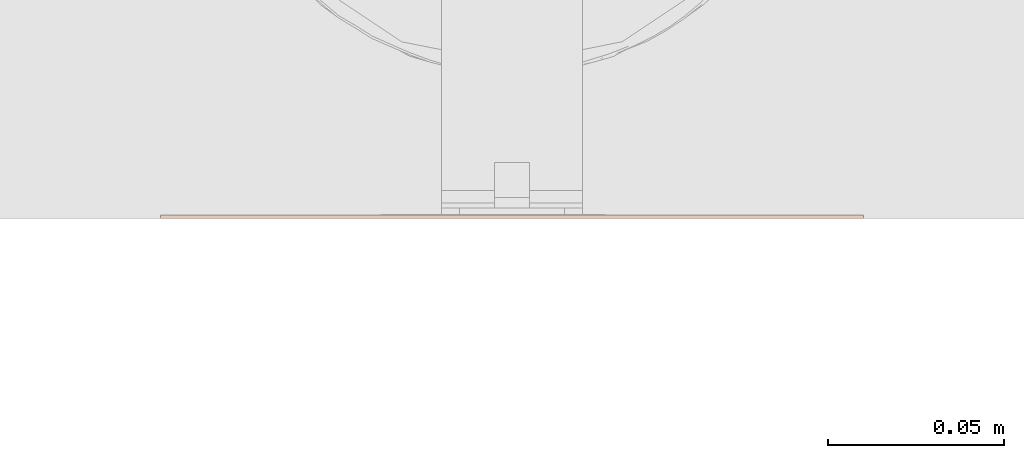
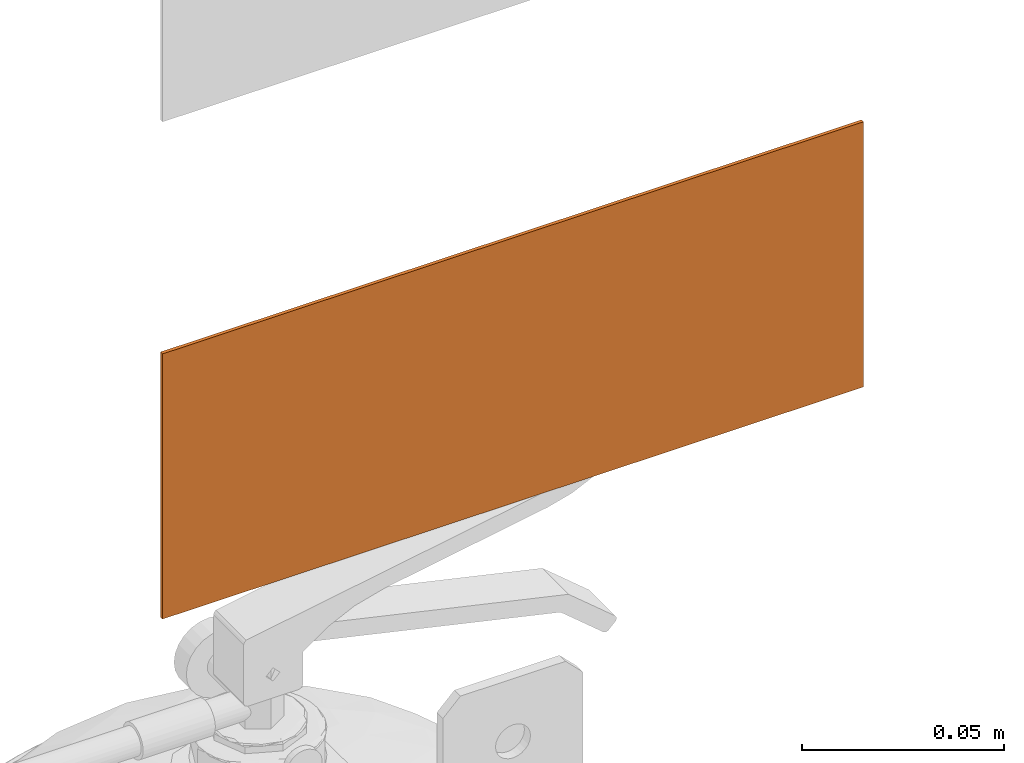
# One storey, part 105 of 119: 1 proxy.
"""IFC2X3 building model written with IfcOpenShell, lengths in metres."""

import ifcopenshell
import ifcopenshell.guid

model = None  # the IFC model being written
_history = None  # IfcOwnerHistory: only IFC2X3 demands one
_inside = {}  # id of a spatial element -> (the spatial element, [elements in it])
_under = {}  # id of a project, library or spatial element -> (it, [spatial elements below it])
_declared = {}  # id of a project -> (the project, [libraries it declares])
_typed = {}  # id of a type object -> (the type object, [elements of that type])
_made_of = {}  # id of a material, layer set ... -> (it, [elements and type objects made of it])


def new_model(schema):
    """Start an empty IFC model of exactly this schema.

    Asked for "IFC4X3", IfcOpenShell would pick the latest addendum, in which some entities
    have other attributes; the version numbers below select the first issue.
    IFC2X3 requires an IfcOwnerHistory on every rooted entity: one is made here for all.
    """
    global model, _history
    if schema == "IFC4X3":
        model = ifcopenshell.file(schema_version=(4, 3, 0, 0))
    else:
        model = ifcopenshell.file(schema=schema)
    _inside.clear()
    _under.clear()
    _declared.clear()
    _typed.clear()
    _made_of.clear()
    _history = None
    if model.schema == "IFC2X3":
        org = make("IfcOrganization", Name="unknown")
        user = make(
            "IfcPersonAndOrganization",
            ThePerson=make("IfcPerson", FamilyName="unknown"),
            TheOrganization=org,
        )
        app = make(
            "IfcApplication",
            ApplicationDeveloper=org,
            Version="unknown",
            ApplicationFullName="unknown",
            ApplicationIdentifier="unknown",
        )
        _history = make(
            "IfcOwnerHistory",
            OwningUser=user,
            OwningApplication=app,
            ChangeAction="ADDED",
            CreationDate=0,
        )
    return model


def make(cls, **values):
    """One entity of the class cls with the attributes given. An attribute that is None is left unset."""
    return model.create_entity(
        cls, **{name: value for name, value in values.items() if value is not None}
    )


def entity(cls, *values):
    """Any entity or typed value of the class cls, its attributes in the order of the schema. None: left unset."""
    e = model.create_entity(cls)
    for i, value in enumerate(values):
        if value is not None:
            e[i] = value
    return e


def rooted(cls, **values):
    """An entity with a GlobalId (a new one), such as an element, a storey or a relation."""
    return make(cls, GlobalId=ifcopenshell.guid.new(), OwnerHistory=_history, **values)


def si_unit(unit_type, name, prefix=None):
    """IfcSIUnit, for example si_unit("LENGTHUNIT", "METRE", prefix="MILLI")."""
    return make("IfcSIUnit", UnitType=unit_type, Prefix=prefix, Name=name)


def converted_unit(unit_type, name, factor, base, dimensions=None, offset=None):
    """IfcConversionBasedUnit, such as the inch: factor (a typed value) times the base unit."""
    return make(
        "IfcConversionBasedUnit"
        if offset is None
        else "IfcConversionBasedUnitWithOffset",
        ConversionOffset=offset,
        Dimensions=None
        if dimensions is None
        else entity("IfcDimensionalExponents", *dimensions),
        UnitType=unit_type,
        Name=name,
        ConversionFactor=make(
            "IfcMeasureWithUnit", ValueComponent=factor, UnitComponent=base
        ),
    )


def derived_unit(unit_type, elements):
    """IfcDerivedUnit: a product of units, each with its exponent."""
    return make(
        "IfcDerivedUnit",
        Elements=[
            make("IfcDerivedUnitElement", Unit=unit, Exponent=power)
            for unit, power in elements
        ],
        UnitType=unit_type,
    )


def assignment(units):
    """IfcUnitAssignment: the units of a project."""
    return None if units is None else make("IfcUnitAssignment", Units=units)


def point(xyz):
    """IfcCartesianPoint."""
    return None if xyz is None else make("IfcCartesianPoint", Coordinates=xyz)


def direction(xyz):
    """IfcDirection."""
    return None if xyz is None else make("IfcDirection", DirectionRatios=xyz)


def frame(location, z_axis=None, x_axis=None):
    """IfcAxis2Placement3D, a coordinate frame: its origin and axes. An axis left out is left unset."""
    return make(
        "IfcAxis2Placement3D",
        Location=point(location),
        Axis=direction(z_axis),
        RefDirection=direction(x_axis),
    )


def frame_2d(location, x_axis=None):
    """IfcAxis2Placement2D, a coordinate frame in the plane: its origin and x axis."""
    return make(
        "IfcAxis2Placement2D", Location=point(location), RefDirection=direction(x_axis)
    )


def origin():
    """The frame at (0, 0, 0) with its axes left unset."""
    return frame((0.0, 0.0, 0.0))


def origin_2d_with_axis():
    """The frame at (0, 0) in the plane with the x axis (1, 0) written out."""
    return frame_2d((0.0, 0.0), x_axis=(1.0, 0.0))


def place(relative_to, where):
    """IfcLocalPlacement: puts the frame where relative to a parent placement (None: the world)."""
    return make(
        "IfcLocalPlacement", PlacementRelTo=relative_to, RelativePlacement=where
    )


def context(
    kind, dimensions, precision=None, world=None, true_north=None, identifier=None
):
    """IfcGeometricRepresentationContext, for example the 3D "Model" context."""
    return make(
        "IfcGeometricRepresentationContext",
        ContextIdentifier=identifier,
        ContextType=kind,
        CoordinateSpaceDimension=dimensions,
        Precision=precision,
        WorldCoordinateSystem=world,
        TrueNorth=true_north,
    )


def subcontext(parent, identifier, kind, view, scale=None):
    """IfcGeometricRepresentationSubContext, for example "Body" below "Model"."""
    return make(
        "IfcGeometricRepresentationSubContext",
        ContextIdentifier=identifier,
        ContextType=kind,
        ParentContext=parent,
        TargetScale=scale,
        TargetView=view,
    )


def project(units=None, contexts=None):
    """IfcProject with its units and contexts."""
    return rooted(
        "IfcProject",
        Name="project",
        RepresentationContexts=contexts,
        UnitsInContext=assignment(units),
    )


def spatial(cls, under=None, at=None, **own):
    """A site, building, storey or space (cls), placed at a placement, below another one or the project."""
    s = rooted(cls, ObjectPlacement=at, **own)
    if under is not None:
        _under.setdefault(under.id(), (under, []))[1].append(s)
    return s


def polyline(points):
    """IfcPolyline through the points."""
    return make("IfcPolyline", Points=[point(p) for p in points])


def circle_curve(where, radius):
    """IfcCircle in the frame where."""
    return make("IfcCircle", Position=where, Radius=radius)


def parameter(value):
    """IfcParameterValue: where a trimmed curve begins or ends, as a parameter of its basis curve."""
    return model.create_entity("IfcParameterValue", value)


def trimmed(basis, trim1, trim2, sense, master):
    """IfcTrimmedCurve: the piece of a basis curve between two trims."""
    return make(
        "IfcTrimmedCurve",
        BasisCurve=basis,
        Trim1=trim1,
        Trim2=trim2,
        SenseAgreement=sense,
        MasterRepresentation=master,
    )


def segment(curve, same_sense, transition):
    """IfcCompositeCurveSegment."""
    return make(
        "IfcCompositeCurveSegment",
        Transition=transition,
        SameSense=same_sense,
        ParentCurve=curve,
    )


def composite_curve(segments, self_intersect=None):
    """IfcCompositeCurve: segments joined end to end."""
    return make("IfcCompositeCurve", Segments=segments, SelfIntersect=self_intersect)


def profile(cls, at=None, kind="AREA", **sizes):
    """A parametric profile (cls). Its sizes go by their IFC names, for example OverallWidth=200.0."""
    return make(cls, ProfileType=kind, Position=at, **sizes)


def rectangle(**sizes):
    """IfcRectangleProfileDef."""
    return profile("IfcRectangleProfileDef", **sizes)


def outline(outer, holes=None, kind="AREA"):
    """IfcArbitraryClosedProfileDef: a profile drawn as a closed curve; with holes, ...WithVoids."""
    if holes is None:
        return make("IfcArbitraryClosedProfileDef", ProfileType=kind, OuterCurve=outer)
    return make(
        "IfcArbitraryProfileDefWithVoids",
        ProfileType=kind,
        OuterCurve=outer,
        InnerCurves=holes,
    )


def extrude(swept, where, along, depth):
    """IfcExtrudedAreaSolid: the profile swept, set in the frame where, extruded along a direction by depth."""
    return make(
        "IfcExtrudedAreaSolid",
        SweptArea=swept,
        Position=where,
        ExtrudedDirection=direction(along),
        Depth=depth,
    )


def shape(context_of_items, identifier, shape_type, items):
    """IfcShapeRepresentation: the items that make up one representation, for example the "Body"."""
    return make(
        "IfcShapeRepresentation",
        ContextOfItems=context_of_items,
        RepresentationIdentifier=identifier,
        RepresentationType=shape_type,
        Items=items,
    )


def source(mapping_origin, context_of_items, identifier, shape_type, items):
    """IfcRepresentationMap: a shape defined once, which mapped items show again and again."""
    return make(
        "IfcRepresentationMap",
        MappingOrigin=mapping_origin,
        MappedRepresentation=shape(context_of_items, identifier, shape_type, items),
    )


def transform(
    local_origin,
    x_axis=None,
    y_axis=None,
    z_axis=None,
    scale=None,
    scale2=None,
    scale3=None,
    uniform=True,
):
    """IfcCartesianTransformationOperator3D, or its non-uniform kind. x_axis, y_axis, z_axis: its Axis1, 2, 3."""
    if uniform:
        return make(
            "IfcCartesianTransformationOperator3D",
            Axis1=direction(x_axis),
            Axis2=direction(y_axis),
            LocalOrigin=point(local_origin),
            Scale=scale,
            Axis3=direction(z_axis),
        )
    return make(
        "IfcCartesianTransformationOperator3DnonUniform",
        Axis1=direction(x_axis),
        Axis2=direction(y_axis),
        LocalOrigin=point(local_origin),
        Scale=scale,
        Axis3=direction(z_axis),
        Scale2=scale2,
        Scale3=scale3,
    )


def mapped(mapping_source, mapping_target):
    """IfcMappedItem: shows the shape of a source again, moved by a transform."""
    return make(
        "IfcMappedItem", MappingSource=mapping_source, MappingTarget=mapping_target
    )


def material(Name=None, Category=None):
    """IfcMaterial."""
    return make("IfcMaterial", Name=Name, Category=Category)


def material_list(materials):
    """IfcMaterialList."""
    return make("IfcMaterialList", Materials=materials)


def made_of(thing, what):
    """Note that an element or type object is made of a material, layer set ...; save() writes the relation."""
    if what is not None:
        _made_of.setdefault(what.id(), (what, []))[1].append(thing)
    return thing


def type_object(cls, material=None, **own):
    """A type object (cls), such as IfcWallType, which elements share."""
    return made_of(rooted(cls, **own), material)


def type_shapes(of_type, sources):
    """Give a type object the sources (RepresentationMaps) that its elements show as mapped items."""
    of_type.RepresentationMaps = sources


def element(
    cls,
    number,
    at=None,
    inside=None,
    cuts=None,
    type_object=None,
    material=None,
    context=None,
    identifier="Body",
    shape_type=None,
    held_by="IfcProductDefinitionShape",
    body=None,
    shapes=None,
    **own,
):
    """One element of the class cls, such as IfcWall. Its Tag is "e" and its number.

    at: its placement. inside: the storey or other place that contains it. cuts: it is an
    opening in that element (IfcRelVoidsElement). A single representation is given by context,
    identifier, shape_type and body (its items); several are given by shapes. held_by: the class
    of the entity that holds the representations. save() writes the other relations.
    """
    e = rooted(cls, Tag="e%d" % number, ObjectPlacement=at, **own)
    if body is not None:
        shapes = [shape(context, identifier, shape_type, body)]
    if shapes is not None:
        e.Representation = make(held_by, Representations=shapes)
    if inside is not None:
        _inside.setdefault(inside.id(), (inside, []))[1].append(e)
    if cuts is not None:
        rooted(
            "IfcRelVoidsElement", RelatingBuildingElement=cuts, RelatedOpeningElement=e
        )
    if type_object is not None:
        _typed.setdefault(type_object.id(), (type_object, []))[1].append(e)
    return made_of(e, material)


def aggregate(whole, parts):
    """IfcRelAggregates: a whole, such as a stair, and the parts it consists of."""
    return rooted("IfcRelAggregates", RelatingObject=whole, RelatedObjects=parts)


def save(model, path):
    """Write the relations noted so far, then the file.

    IfcRelAggregates (storeys below a building ...), IfcRelContainedInSpatialStructure (elements
    in a storey), IfcRelDefinesByType, IfcRelAssociatesMaterial and IfcRelDeclares: one each for
    every whole, place, type object, material and project.
    """
    for whole, parts in _under.values():
        aggregate(whole, parts)
    for where, things in _inside.values():
        rooted(
            "IfcRelContainedInSpatialStructure",
            RelatedElements=things,
            RelatingStructure=where,
        )
    for kind, things in _typed.values():
        rooted("IfcRelDefinesByType", RelatedObjects=things, RelatingType=kind)
    for what, things in _made_of.values():
        rooted("IfcRelAssociatesMaterial", RelatedObjects=things, RelatingMaterial=what)
    for by, libraries in _declared.values():
        rooted("IfcRelDeclares", RelatingContext=by, RelatedDefinitions=libraries)
    model.write(path)


model = new_model("IFC2X3")

# Units and contexts
model_context = context("Model", 3, precision=1e-05, world=origin(), true_north=direction((6.12303176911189e-17, 1.0)))
body_context = subcontext(model_context, "Body", "Model", "MODEL_VIEW")
ifc_project = project(units=[si_unit("LENGTHUNIT", "METRE"), si_unit("AREAUNIT", "SQUARE_METRE"), si_unit("VOLUMEUNIT", "CUBIC_METRE"), converted_unit("PLANEANGLEUNIT", "DEGREE", entity("IfcRatioMeasure", 0.0174532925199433), si_unit("PLANEANGLEUNIT", "RADIAN"), dimensions=[0, 0, 0, 0, 0, 0, 0]), si_unit("MASSUNIT", "GRAM", prefix="KILO"), derived_unit("MASSDENSITYUNIT", [(si_unit("MASSUNIT", "GRAM", prefix="KILO"), 1), (si_unit("LENGTHUNIT", "METRE"), -3)]), derived_unit("MOMENTOFINERTIAUNIT", [(si_unit("LENGTHUNIT", "METRE"), 4)]), si_unit("TIMEUNIT", "SECOND"), si_unit("FREQUENCYUNIT", "HERTZ"), si_unit("THERMODYNAMICTEMPERATUREUNIT", "DEGREE_CELSIUS"), derived_unit("THERMALTRANSMITTANCEUNIT", [(si_unit("MASSUNIT", "GRAM", prefix="KILO"), 1), (si_unit("THERMODYNAMICTEMPERATUREUNIT", "KELVIN"), -1), (si_unit("TIMEUNIT", "SECOND"), -3)]), derived_unit("VOLUMETRICFLOWRATEUNIT", [(si_unit("LENGTHUNIT", "METRE"), 3), (si_unit("TIMEUNIT", "SECOND"), -1)]), si_unit("ELECTRICCURRENTUNIT", "AMPERE"), si_unit("ELECTRICVOLTAGEUNIT", "VOLT"), si_unit("POWERUNIT", "WATT"), si_unit("FORCEUNIT", "NEWTON", prefix="KILO"), si_unit("ILLUMINANCEUNIT", "LUX"), si_unit("LUMINOUSFLUXUNIT", "LUMEN"), si_unit("LUMINOUSINTENSITYUNIT", "CANDELA"), derived_unit("USERDEFINED", [(si_unit("MASSUNIT", "GRAM", prefix="KILO"), -1), (si_unit("LENGTHUNIT", "METRE"), -2), (si_unit("TIMEUNIT", "SECOND"), 3), (si_unit("LUMINOUSFLUXUNIT", "LUMEN"), 1)]), derived_unit("LINEARVELOCITYUNIT", [(si_unit("LENGTHUNIT", "METRE"), 1), (si_unit("TIMEUNIT", "SECOND"), -1)]), si_unit("PRESSUREUNIT", "PASCAL"), derived_unit("USERDEFINED", [(si_unit("LENGTHUNIT", "METRE"), -2), (si_unit("MASSUNIT", "GRAM", prefix="KILO"), 1), (si_unit("TIMEUNIT", "SECOND"), -2)]), derived_unit("LINEARFORCEUNIT", [(si_unit("MASSUNIT", "GRAM", prefix="KILO"), 1), (si_unit("LENGTHUNIT", "METRE"), 1), (si_unit("TIMEUNIT", "SECOND"), -2), (si_unit("LENGTHUNIT", "METRE"), -1)]), derived_unit("PLANARFORCEUNIT", [(si_unit("MASSUNIT", "GRAM", prefix="KILO"), 1), (si_unit("LENGTHUNIT", "METRE"), 1), (si_unit("TIMEUNIT", "SECOND"), -2), (si_unit("LENGTHUNIT", "METRE"), -2)])], contexts=[model_context])

# Site, building, storey
site_placement = place(None, origin())
site = spatial("IfcSite", under=ifc_project, at=site_placement, Name="Default", CompositionType="ELEMENT")
building_placement = place(site_placement, origin())
building = spatial("IfcBuilding", under=site, at=building_placement, CompositionType="ELEMENT")
storey_placement = place(building_placement, origin())
storey = spatial("IfcBuildingStorey", under=building, at=storey_placement, Name="PAV. 01 - TÉRREO", CompositionType="ELEMENT", Elevation=0.0)

# Proxy
ifc_material_1 = material(Name="Plastico Preto")
ifc_material_2 = material(Name="Plastico azul claro")
ifc_material_3 = material(Name="Plastico vermelho")
ifc_material_4 = material(Name="Plastico branco")
ifc_material_5 = material(Name="Plastico Verde")
ifc_material_list = material_list([ifc_material_1, ifc_material_2, ifc_material_3, ifc_material_4, ifc_material_5])
building_element_proxy_type = type_object("IfcBuildingElementProxyType", Name="Sinalização de equipamentos - E05 - Extintor de incêndio - TIPO 2:Placa de extintor - E6-A", PredefinedType="NOTDEFINED", material=ifc_material_1)
shared_shape = source(origin(), body_context, "Body", "SweptSolid", [
    extrude(rectangle(XDim=0.0243464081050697, YDim=0.001, at=origin_2d_with_axis()), frame((0.0791678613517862, 0.0005, 0.0143679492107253), z_axis=(0.0, 0.0, 1.0), x_axis=(-1.0, 0.0, 0.0)), (0.0, 0.0, 1.0), 0.0243153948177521),
    extrude(rectangle(XDim=0.0243464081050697, YDim=0.001, at=origin_2d_with_axis()), frame((0.0514092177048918, 0.0005, 0.0143679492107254), z_axis=(0.0, 0.0, 1.0), x_axis=(-1.0, 0.0, 0.0)), (0.0, 0.0, 1.0), 0.0243153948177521),
    extrude(rectangle(XDim=0.0243464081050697, YDim=0.001, at=origin_2d_with_axis()), frame((0.023605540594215, 0.0005, 0.0143679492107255), z_axis=(0.0, 0.0, 1.0), x_axis=(-1.0, 0.0, 0.0)), (0.0, 0.0, 1.0), 0.0243153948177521),
    extrude(rectangle(XDim=0.0243464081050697, YDim=0.001, at=origin_2d_with_axis()), frame((-0.00415310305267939, 0.0005, 0.0143679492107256), z_axis=(0.0, 0.0, 1.0), x_axis=(-1.0, 0.0, 0.0)), (0.0, 0.0, 1.0), 0.0243153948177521),
    extrude(outline(polyline([(-0.0399999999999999, -0.1), (0.0399999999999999, -0.1), (0.0399999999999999, 0.1), (-0.0399999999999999, 0.1), (-0.0399999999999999, -0.1)]), holes=[polyline([(-0.0319999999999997, 0.091), (-0.0150022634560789, 0.091), (-0.0150022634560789, -0.091), (-0.0319999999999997, -0.091), (-0.0319999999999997, 0.091)]), polyline([(-0.010791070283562, 0.091), (0.0319999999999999, 0.091), (0.0319999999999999, 0.0473282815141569), (-0.010791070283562, 0.0473282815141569), (-0.010791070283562, 0.091)]), polyline([(0.00131665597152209, 0.0441091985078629), (0.0256320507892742, 0.0441091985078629), (0.0256320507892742, 0.0197627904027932), (0.00131665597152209, 0.0197627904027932), (0.00131665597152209, 0.0441091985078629)]), polyline([(0.00131665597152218, 0.0163263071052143), (0.0256320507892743, 0.0163263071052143), (0.0256320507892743, -0.00802010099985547), (0.00131665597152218, -0.00802010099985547), (0.00131665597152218, 0.0163263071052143)]), polyline([(0.00131665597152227, -0.0114323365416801), (0.0256320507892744, -0.0114323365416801), (0.0256320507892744, -0.0357787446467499), (0.00131665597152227, -0.0357787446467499), (0.00131665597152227, -0.0114323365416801)]), polyline([(0.00131665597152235, -0.0635824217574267), (0.00131665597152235, -0.039236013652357), (0.0256320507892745, -0.039236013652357), (0.0256320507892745, -0.0635824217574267), (0.00131665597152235, -0.0635824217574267)]), polyline([(0.00131665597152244, -0.0669946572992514), (0.0256320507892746, -0.0669946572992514), (0.0256320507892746, -0.091), (0.00131665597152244, -0.091), (0.00131665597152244, -0.0669946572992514)])]), frame((0.0, 0.0, 0.0399999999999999), z_axis=(0.0, 1.0, 0.0), x_axis=(0.0, 0.0, -1.0)), (0.0, 0.0, 1.0), 0.001),
    extrude(outline(composite_curve([segment(trimmed(circle_curve(frame_2d((-0.00182713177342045, 0.0030692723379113), x_axis=(1.0, 0.0)), 0.00333179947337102), [parameter(180.0)], [parameter(270.0)], True, "PARAMETER"), True, "CONTINUOUS"), segment(polyline([(-0.00182713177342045, -0.000262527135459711), (-0.000430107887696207, -0.000262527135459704)]), True, "CONTINUOUS"), segment(polyline([(-0.000430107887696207, -0.000262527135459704), (-0.000430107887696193, -0.00350797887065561)]), True, "CONTINUOUS"), segment(polyline([(-0.000430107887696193, -0.00350797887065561), (-0.00249820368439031, -0.00350797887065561)]), True, "CONTINUOUS"), segment(polyline([(-0.00249820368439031, -0.00350797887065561), (-0.00742535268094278, 7.18044171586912e-05)]), True, "CONTINUOUS"), segment(polyline([(-0.00742535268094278, 7.18044171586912e-05), (-0.00742535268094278, 0.00166630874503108)]), True, "CONTINUOUS"), segment(polyline([(-0.00742535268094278, 0.00166630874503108), (-0.00871124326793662, 0.00166630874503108)]), True, "CONTINUOUS"), segment(polyline([(-0.00871124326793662, 0.00166630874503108), (-0.00846384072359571, -0.00134355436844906)]), True, "CONTINUOUS"), segment(trimmed(circle_curve(frame_2d((-0.00608099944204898, -0.00114769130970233), x_axis=(1.0, 0.0)), 0.00239087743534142), [parameter(184.698993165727)], [parameter(232.0)], True, "PARAMETER"), True, "CONTINUOUS"), segment(polyline([(-0.00755297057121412, -0.00303172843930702), (-0.0030496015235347, -0.00655014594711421)]), True, "CONTINUOUS"), segment(polyline([(-0.0030496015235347, -0.00655014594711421), (-0.000124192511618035, -0.00655014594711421)]), True, "CONTINUOUS"), segment(polyline([(-0.000124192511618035, -0.00655014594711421), (-0.000124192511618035, -0.00788602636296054)]), True, "CONTINUOUS"), segment(polyline([(-0.000124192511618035, -0.00788602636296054), (0.003207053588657, -0.00788602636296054)]), True, "CONTINUOUS"), segment(polyline([(0.003207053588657, -0.00788602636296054), (0.003207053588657, -0.00698801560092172)]), True, "CONTINUOUS"), segment(polyline([(0.003207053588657, -0.00698801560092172), (0.00540783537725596, -0.00698801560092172)]), True, "CONTINUOUS"), segment(polyline([(0.00540783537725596, -0.00698801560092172), (0.00665542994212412, -0.00574042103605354)]), True, "CONTINUOUS"), segment(polyline([(0.00665542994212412, -0.00574042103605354), (0.00665542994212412, -0.00450724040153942)]), True, "CONTINUOUS"), segment(polyline([(0.00665542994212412, -0.00450724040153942), (0.00491919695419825, -0.00324579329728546)]), True, "CONTINUOUS"), segment(polyline([(0.00491919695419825, -0.00324579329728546), (0.00355615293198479, -0.00324579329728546)]), True, "CONTINUOUS"), segment(polyline([(0.00355615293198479, -0.00324579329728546), (0.00355615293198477, -0.000262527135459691)]), True, "CONTINUOUS"), segment(polyline([(0.00355615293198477, -0.000262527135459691), (0.00500257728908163, -0.000262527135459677)]), True, "CONTINUOUS"), segment(trimmed(circle_curve(frame_2d((0.00500257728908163, 0.00284153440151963), x_axis=(1.0, 0.0)), 0.00310406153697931), [parameter(270.0)], [parameter(1.52666624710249e-13)], True, "PARAMETER"), True, "CONTINUOUS"), segment(polyline([(0.00810663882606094, 0.00284153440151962), (0.0081066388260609, 0.0313568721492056)]), True, "CONTINUOUS"), segment(polyline([(0.0081066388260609, 0.0313568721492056), (-0.00515893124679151, 0.0313568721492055)]), True, "CONTINUOUS"), segment(polyline([(-0.00515893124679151, 0.0313568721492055), (-0.00515893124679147, 0.00306927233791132)]), True, "CONTINUOUS")], self_intersect=False)), frame((-0.0705753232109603, 0.0, 0.0413479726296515), z_axis=(0.0, 1.0, 0.0), x_axis=(1.0, 0.0, 0.0)), (0.0, 0.0, 1.0), 0.001),
    extrude(rectangle(XDim=0.0243464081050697, YDim=0.001, at=origin_2d_with_axis()), frame((-0.0319359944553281, 0.0005, 0.0143679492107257), z_axis=(0.0, 0.0, 1.0), x_axis=(-1.0, 0.0, 0.0)), (0.0, 0.0, 1.0), 0.0243153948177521),
    extrude(outline(polyline([(-0.0218358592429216, -0.021395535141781), (0.0218358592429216, -0.021395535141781), (0.0218358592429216, 0.021395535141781), (-0.0218358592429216, 0.021395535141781), (-0.0218358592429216, -0.021395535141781)]), holes=[composite_curve([segment(polyline([(-0.00669545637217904, -0.0194044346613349), (-0.00669545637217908, 0.00911090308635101)]), True, "CONTINUOUS"), segment(trimmed(circle_curve(frame_2d((-0.00359139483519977, 0.00911090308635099), x_axis=(-1.0, 0.0)), 0.00310406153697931), [parameter(270.0)], [parameter(360.0)], True, "PARAMETER"), False, "CONTINUOUS"), segment(polyline([(-0.0035913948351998, 0.0122149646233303), (-0.00214497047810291, 0.0122149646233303)]), True, "CONTINUOUS"), segment(polyline([(-0.00214497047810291, 0.0122149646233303), (-0.00214497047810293, 0.0151982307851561)]), True, "CONTINUOUS"), segment(polyline([(-0.00214497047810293, 0.0151982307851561), (-0.0035080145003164, 0.0151982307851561)]), True, "CONTINUOUS"), segment(polyline([(-0.0035080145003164, 0.0151982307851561), (-0.00524424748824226, 0.01645967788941)]), True, "CONTINUOUS"), segment(polyline([(-0.00524424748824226, 0.01645967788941), (-0.00524424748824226, 0.0176928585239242)]), True, "CONTINUOUS"), segment(polyline([(-0.00524424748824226, 0.0176928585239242), (-0.0039966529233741, 0.0189404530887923)]), True, "CONTINUOUS"), segment(polyline([(-0.0039966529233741, 0.0189404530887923), (-0.00179587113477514, 0.0189404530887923)]), True, "CONTINUOUS"), segment(polyline([(-0.00179587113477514, 0.0189404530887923), (-0.00179587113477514, 0.0198384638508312)]), True, "CONTINUOUS"), segment(polyline([(-0.00179587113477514, 0.0198384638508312), (0.00153537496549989, 0.0198384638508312)]), True, "CONTINUOUS"), segment(polyline([(0.00153537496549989, 0.0198384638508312), (0.00153537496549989, 0.0185025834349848)]), True, "CONTINUOUS"), segment(polyline([(0.00153537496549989, 0.0185025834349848), (0.00446078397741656, 0.0185025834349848)]), True, "CONTINUOUS"), segment(polyline([(0.00446078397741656, 0.0185025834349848), (0.00896415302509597, 0.0149841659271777)]), True, "CONTINUOUS"), segment(trimmed(circle_curve(frame_2d((0.00749218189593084, 0.0131001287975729), x_axis=(-1.0, 0.0)), 0.00239087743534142), [parameter(184.698993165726)], [parameter(231.999999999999)], True, "PARAMETER"), False, "CONTINUOUS"), segment(polyline([(0.00987502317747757, 0.0132959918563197), (0.0101224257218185, 0.0102861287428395)]), True, "CONTINUOUS"), segment(polyline([(0.0101224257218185, 0.0102861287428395), (0.00883653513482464, 0.0102861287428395)]), True, "CONTINUOUS"), segment(polyline([(0.00883653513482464, 0.0102861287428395), (0.00883653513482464, 0.0118806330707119)]), True, "CONTINUOUS"), segment(polyline([(0.00883653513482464, 0.0118806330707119), (0.00390938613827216, 0.0154604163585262)]), True, "CONTINUOUS"), segment(polyline([(0.00390938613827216, 0.0154604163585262), (0.00184129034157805, 0.0154604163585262)]), True, "CONTINUOUS"), segment(polyline([(0.00184129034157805, 0.0154604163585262), (0.00184129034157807, 0.0122149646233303)]), True, "CONTINUOUS"), segment(polyline([(0.00184129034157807, 0.0122149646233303), (0.00323831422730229, 0.0122149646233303)]), True, "CONTINUOUS"), segment(trimmed(circle_curve(frame_2d((0.00323831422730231, 0.00888316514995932), x_axis=(-1.0, 0.0)), 0.00333179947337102), [parameter(180.0)], [parameter(270.0)], True, "PARAMETER"), False, "CONTINUOUS"), segment(polyline([(0.00657011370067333, 0.00888316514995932), (0.00657011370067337, -0.0194044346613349)]), True, "CONTINUOUS"), segment(polyline([(0.00657011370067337, -0.0194044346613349), (-0.00669545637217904, -0.0194044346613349)]), True, "CONTINUOUS")], self_intersect=False)]), frame((-0.0691641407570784, 0.0, 0.0293955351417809), z_axis=(0.0, 1.0, 0.0), x_axis=(-1.0, 0.0, 0.0)), (0.0, 0.0, 1.0), 0.001),
    extrude(rectangle(XDim=0.182, YDim=0.001, at=origin_2d_with_axis()), frame((0.0, 0.0005, 0.0550022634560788), z_axis=(0.0, 0.0, 1.0), x_axis=(-1.0, 0.0, 0.0)), (0.0, 0.0, 1.0), 0.0169977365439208),
])
type_shapes(building_element_proxy_type, [shared_shape])
proxy_placement = place(storey_placement, frame((70.6204225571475, 25.4871958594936, 1.65)))
element("IfcBuildingElementProxy", 1, at=proxy_placement, inside=storey, type_object=building_element_proxy_type, material=ifc_material_list, Name="Sinalização de equipamentos - E05 - Extintor de incêndio - TIPO 2:Placa de extintor - E6-A", ObjectType="Sinalização de equipamentos - E05 - Extintor de incêndio - TIPO 2:Placa de extintor - E6-A", context=body_context, shape_type="MappedRepresentation", body=[
    mapped(shared_shape, transform((0.0, 0.0, 0.0), scale=1.0)),
])

save(model, "model.ifc")
